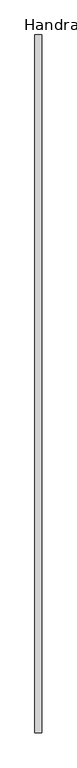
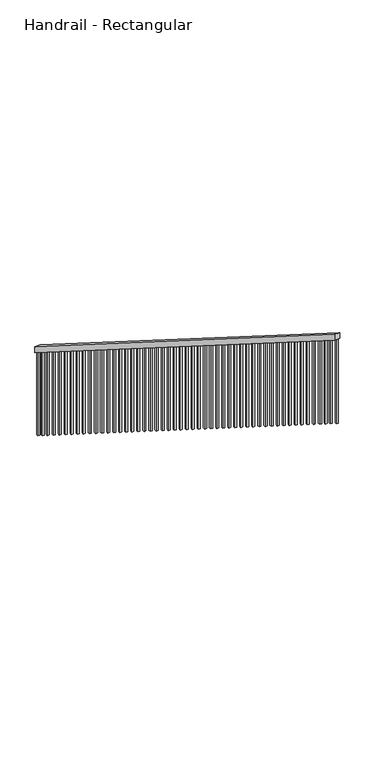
"""IFC4 building model written with IfcOpenShell, lengths in millimetres: railing geometry, Handrail - Rectangular."""

from ifc_helpers import new_model, si_unit, frame, origin, place, context, project, spatial, polyline, outline, extrude, source, transform, mapped, element, save


def handrail_rectangular_929c261a(model_context):
    return source(origin(), model_context, "Body", "SweptSolid", [
        extrude(outline(polyline([(56940.686508, -2261.9368421), (56940.686508, -2322.0204219), (51911.486508, 854.3164202), (51911.486508, 914.4), (56940.686508, -2261.9368421)])), frame((2423.4480231, 0.0, 0.0), z_axis=(1.0, 0.0, 0.0), x_axis=(0.0, 1.0, 0.0)), (0.0, 0.0, 1.0), 50.8),
        extrude(outline(polyline([(51930.536508, -6.0157895), (51911.486508, -6.0157895), (51911.486508, 854.3164202), (51930.536508, 842.2848412), (51930.536508, -6.0157895)])), frame((2439.3230231, 0.0, 0.0), z_axis=(1.0, 0.0, 0.0), x_axis=(0.0, 1.0, 0.0)), (0.0, 0.0, 1.0), 19.05),
        extrude(outline(polyline([(52032.136508, -70.1842105), (52013.086508, -70.1842105), (52013.086508, 790.1479991), (52032.136508, 778.1164202), (52032.136508, -70.1842105)])), frame((2439.3230231, 0.0, 0.0), z_axis=(1.0, 0.0, 0.0), x_axis=(0.0, 1.0, 0.0)), (0.0, 0.0, 1.0), 19.05),
        extrude(outline(polyline([(52111.511508, -120.3157895), (52092.461508, -120.3157895), (52092.461508, 740.0164202), (52111.511508, 727.9848412), (52111.511508, -120.3157895)])), frame((2439.3230231, 0.0, 0.0), z_axis=(1.0, 0.0, 0.0), x_axis=(0.0, 1.0, 0.0)), (0.0, 0.0, 1.0), 19.05),
        extrude(outline(polyline([(52209.936508, -182.4789474), (52190.886508, -182.4789474), (52190.886508, 677.8532623), (52209.936508, 665.8216833), (52209.936508, -182.4789474)])), frame((2439.3230231, 0.0, 0.0), z_axis=(1.0, 0.0, 0.0), x_axis=(0.0, 1.0, 0.0)), (0.0, 0.0, 1.0), 19.05),
        extrude(outline(polyline([(52311.536508, -246.6473684), (52292.486508, -246.6473684), (52292.486508, 613.6848412), (52311.536508, 601.6532623), (52311.536508, -246.6473684)])), frame((2439.3230231, 0.0, 0.0), z_axis=(1.0, 0.0, 0.0), x_axis=(0.0, 1.0, 0.0)), (0.0, 0.0, 1.0), 19.05),
        extrude(outline(polyline([(52413.136508, -310.8157895), (52394.086508, -310.8157895), (52394.086508, 549.5164202), (52413.136508, 537.4848412), (52413.136508, -310.8157895)])), frame((2439.3230231, 0.0, 0.0), z_axis=(1.0, 0.0, 0.0), x_axis=(0.0, 1.0, 0.0)), (0.0, 0.0, 1.0), 19.05),
        extrude(outline(polyline([(52514.736508, -374.9842105), (52495.686508, -374.9842105), (52495.686508, 485.3479991), (52514.736508, 473.3164202), (52514.736508, -374.9842105)])), frame((2439.3230231, 0.0, 0.0), z_axis=(1.0, 0.0, 0.0), x_axis=(0.0, 1.0, 0.0)), (0.0, 0.0, 1.0), 19.05),
        extrude(outline(polyline([(52616.336508, -439.1526316), (52597.286508, -439.1526316), (52597.286508, 421.1795781), (52616.336508, 409.1479991), (52616.336508, -439.1526316)])), frame((2439.3230231, 0.0, 0.0), z_axis=(1.0, 0.0, 0.0), x_axis=(0.0, 1.0, 0.0)), (0.0, 0.0, 1.0), 19.05),
        extrude(outline(polyline([(52717.936508, -503.3210526), (52698.886508, -503.3210526), (52698.886508, 357.011157), (52717.936508, 344.9795781), (52717.936508, -503.3210526)])), frame((2439.3230231, 0.0, 0.0), z_axis=(1.0, 0.0, 0.0), x_axis=(0.0, 1.0, 0.0)), (0.0, 0.0, 1.0), 19.05),
        extrude(outline(polyline([(52819.536508, -567.4894737), (52800.486508, -567.4894737), (52800.486508, 292.842736), (52819.536508, 280.811157), (52819.536508, -567.4894737)])), frame((2439.3230231, 0.0, 0.0), z_axis=(1.0, 0.0, 0.0), x_axis=(0.0, 1.0, 0.0)), (0.0, 0.0, 1.0), 19.05),
        extrude(outline(polyline([(52921.136508, -631.6578947), (52902.086508, -631.6578947), (52902.086508, 228.6743149), (52921.136508, 216.642736), (52921.136508, -631.6578947)])), frame((2439.3230231, 0.0, 0.0), z_axis=(1.0, 0.0, 0.0), x_axis=(0.0, 1.0, 0.0)), (0.0, 0.0, 1.0), 19.05),
        extrude(outline(polyline([(53022.736508, -695.8263158), (53003.686508, -695.8263158), (53003.686508, 164.5058939), (53022.736508, 152.4743149), (53022.736508, -695.8263158)])), frame((2439.3230231, 0.0, 0.0), z_axis=(1.0, 0.0, 0.0), x_axis=(0.0, 1.0, 0.0)), (0.0, 0.0, 1.0), 19.05),
        extrude(outline(polyline([(53124.336508, -759.9947368), (53105.286508, -759.9947368), (53105.286508, 100.3374728), (53124.336508, 88.3058939), (53124.336508, -759.9947368)])), frame((2439.3230231, 0.0, 0.0), z_axis=(1.0, 0.0, 0.0), x_axis=(0.0, 1.0, 0.0)), (0.0, 0.0, 1.0), 19.05),
        extrude(outline(polyline([(53225.936508, -824.1631579), (53206.886508, -824.1631579), (53206.886508, 36.1690517), (53225.936508, 24.1374728), (53225.936508, -824.1631579)])), frame((2439.3230231, 0.0, 0.0), z_axis=(1.0, 0.0, 0.0), x_axis=(0.0, 1.0, 0.0)), (0.0, 0.0, 1.0), 19.05),
        extrude(outline(polyline([(53327.536508, -888.3315789), (53308.486508, -888.3315789), (53308.486508, -27.9993693), (53327.536508, -40.0309483), (53327.536508, -888.3315789)])), frame((2439.3230231, 0.0, 0.0), z_axis=(1.0, 0.0, 0.0), x_axis=(0.0, 1.0, 0.0)), (0.0, 0.0, 1.0), 19.05),
        extrude(outline(polyline([(53429.136508, -952.5), (53410.086508, -952.5), (53410.086508, -92.1677904), (53429.136508, -104.1993693), (53429.136508, -952.5)])), frame((2439.3230231, 0.0, 0.0), z_axis=(1.0, 0.0, 0.0), x_axis=(0.0, 1.0, 0.0)), (0.0, 0.0, 1.0), 19.05),
        extrude(outline(polyline([(53530.736508, -1016.6684211), (53511.686508, -1016.6684211), (53511.686508, -156.3362114), (53530.736508, -168.3677904), (53530.736508, -1016.6684211)])), frame((2439.3230231, 0.0, 0.0), z_axis=(1.0, 0.0, 0.0), x_axis=(0.0, 1.0, 0.0)), (0.0, 0.0, 1.0), 19.05),
        extrude(outline(polyline([(53632.336508, -1080.8368421), (53613.286508, -1080.8368421), (53613.286508, -220.5046325), (53632.336508, -232.5362114), (53632.336508, -1080.8368421)])), frame((2439.3230231, 0.0, 0.0), z_axis=(1.0, 0.0, 0.0), x_axis=(0.0, 1.0, 0.0)), (0.0, 0.0, 1.0), 19.05),
        extrude(outline(polyline([(53733.936508, -1145.0052632), (53714.886508, -1145.0052632), (53714.886508, -284.6730535), (53733.936508, -296.7046325), (53733.936508, -1145.0052632)])), frame((2439.3230231, 0.0, 0.0), z_axis=(1.0, 0.0, 0.0), x_axis=(0.0, 1.0, 0.0)), (0.0, 0.0, 1.0), 19.05),
        extrude(outline(polyline([(53835.536508, -1209.1736842), (53816.486508, -1209.1736842), (53816.486508, -348.8414746), (53835.536508, -360.8730535), (53835.536508, -1209.1736842)])), frame((2439.3230231, 0.0, 0.0), z_axis=(1.0, 0.0, 0.0), x_axis=(0.0, 1.0, 0.0)), (0.0, 0.0, 1.0), 19.05),
        extrude(outline(polyline([(53937.136508, -1273.3421053), (53918.086508, -1273.3421053), (53918.086508, -413.0098956), (53937.136508, -425.0414746), (53937.136508, -1273.3421053)])), frame((2439.3230231, 0.0, 0.0), z_axis=(1.0, 0.0, 0.0), x_axis=(0.0, 1.0, 0.0)), (0.0, 0.0, 1.0), 19.05),
        extrude(outline(polyline([(54038.736508, -1337.5105263), (54019.686508, -1337.5105263), (54019.686508, -477.1783167), (54038.736508, -489.2098956), (54038.736508, -1337.5105263)])), frame((2439.3230231, 0.0, 0.0), z_axis=(1.0, 0.0, 0.0), x_axis=(0.0, 1.0, 0.0)), (0.0, 0.0, 1.0), 19.05),
        extrude(outline(polyline([(54140.336508, -1401.6789474), (54121.286508, -1401.6789474), (54121.286508, -541.3467377), (54140.336508, -553.3783167), (54140.336508, -1401.6789474)])), frame((2439.3230231, 0.0, 0.0), z_axis=(1.0, 0.0, 0.0), x_axis=(0.0, 1.0, 0.0)), (0.0, 0.0, 1.0), 19.05),
        extrude(outline(polyline([(54241.936508, -1465.8473684), (54222.886508, -1465.8473684), (54222.886508, -605.5151588), (54241.936508, -617.5467377), (54241.936508, -1465.8473684)])), frame((2439.3230231, 0.0, 0.0), z_axis=(1.0, 0.0, 0.0), x_axis=(0.0, 1.0, 0.0)), (0.0, 0.0, 1.0), 19.05),
        extrude(outline(polyline([(54343.536508, -1530.0157895), (54324.486508, -1530.0157895), (54324.486508, -669.6835798), (54343.536508, -681.7151588), (54343.536508, -1530.0157895)])), frame((2439.3230231, 0.0, 0.0), z_axis=(1.0, 0.0, 0.0), x_axis=(0.0, 1.0, 0.0)), (0.0, 0.0, 1.0), 19.05),
        extrude(outline(polyline([(54445.136508, -1594.1842105), (54426.086508, -1594.1842105), (54426.086508, -733.8520009), (54445.136508, -745.8835798), (54445.136508, -1594.1842105)])), frame((2439.3230231, 0.0, 0.0), z_axis=(1.0, 0.0, 0.0), x_axis=(0.0, 1.0, 0.0)), (0.0, 0.0, 1.0), 19.05),
        extrude(outline(polyline([(54546.736508, -1658.3526316), (54527.686508, -1658.3526316), (54527.686508, -798.0204219), (54546.736508, -810.0520009), (54546.736508, -1658.3526316)])), frame((2439.3230231, 0.0, 0.0), z_axis=(1.0, 0.0, 0.0), x_axis=(0.0, 1.0, 0.0)), (0.0, 0.0, 1.0), 19.05),
        extrude(outline(polyline([(54648.336508, -1722.5210526), (54629.286508, -1722.5210526), (54629.286508, -862.188843), (54648.336508, -874.2204219), (54648.336508, -1722.5210526)])), frame((2439.3230231, 0.0, 0.0), z_axis=(1.0, 0.0, 0.0), x_axis=(0.0, 1.0, 0.0)), (0.0, 0.0, 1.0), 19.05),
        extrude(outline(polyline([(54749.936508, -1786.6894737), (54730.886508, -1786.6894737), (54730.886508, -926.357264), (54749.936508, -938.388843), (54749.936508, -1786.6894737)])), frame((2439.3230231, 0.0, 0.0), z_axis=(1.0, 0.0, 0.0), x_axis=(0.0, 1.0, 0.0)), (0.0, 0.0, 1.0), 19.05),
        extrude(outline(polyline([(54851.536508, -1850.8578947), (54832.486508, -1850.8578947), (54832.486508, -990.5256851), (54851.536508, -1002.557264), (54851.536508, -1850.8578947)])), frame((2439.3230231, 0.0, 0.0), z_axis=(1.0, 0.0, 0.0), x_axis=(0.0, 1.0, 0.0)), (0.0, 0.0, 1.0), 19.05),
        extrude(outline(polyline([(54953.136508, -1915.0263158), (54934.086508, -1915.0263158), (54934.086508, -1054.6941061), (54953.136508, -1066.7256851), (54953.136508, -1915.0263158)])), frame((2439.3230231, 0.0, 0.0), z_axis=(1.0, 0.0, 0.0), x_axis=(0.0, 1.0, 0.0)), (0.0, 0.0, 1.0), 19.05),
        extrude(outline(polyline([(55054.736508, -1979.1947368), (55035.686508, -1979.1947368), (55035.686508, -1118.8625272), (55054.736508, -1130.8941061), (55054.736508, -1979.1947368)])), frame((2439.3230231, 0.0, 0.0), z_axis=(1.0, 0.0, 0.0), x_axis=(0.0, 1.0, 0.0)), (0.0, 0.0, 1.0), 19.05),
        extrude(outline(polyline([(55156.336508, -2043.3631579), (55137.286508, -2043.3631579), (55137.286508, -1183.0309483), (55156.336508, -1195.0625272), (55156.336508, -2043.3631579)])), frame((2439.3230231, 0.0, 0.0), z_axis=(1.0, 0.0, 0.0), x_axis=(0.0, 1.0, 0.0)), (0.0, 0.0, 1.0), 19.05),
        extrude(outline(polyline([(55257.936508, -2107.5315789), (55238.886508, -2107.5315789), (55238.886508, -1247.1993693), (55257.936508, -1259.2309483), (55257.936508, -2107.5315789)])), frame((2439.3230231, 0.0, 0.0), z_axis=(1.0, 0.0, 0.0), x_axis=(0.0, 1.0, 0.0)), (0.0, 0.0, 1.0), 19.05),
        extrude(outline(polyline([(55359.536508, -2171.7), (55340.486508, -2171.7), (55340.486508, -1311.3677904), (55359.536508, -1323.3993693), (55359.536508, -2171.7)])), frame((2439.3230231, 0.0, 0.0), z_axis=(1.0, 0.0, 0.0), x_axis=(0.0, 1.0, 0.0)), (0.0, 0.0, 1.0), 19.05),
        extrude(outline(polyline([(55461.136508, -2235.8684211), (55442.086508, -2235.8684211), (55442.086508, -1375.5362114), (55461.136508, -1387.5677904), (55461.136508, -2235.8684211)])), frame((2439.3230231, 0.0, 0.0), z_axis=(1.0, 0.0, 0.0), x_axis=(0.0, 1.0, 0.0)), (0.0, 0.0, 1.0), 19.05),
        extrude(outline(polyline([(55562.736508, -2300.0368421), (55543.686508, -2300.0368421), (55543.686508, -1439.7046325), (55562.736508, -1451.7362114), (55562.736508, -2300.0368421)])), frame((2439.3230231, 0.0, 0.0), z_axis=(1.0, 0.0, 0.0), x_axis=(0.0, 1.0, 0.0)), (0.0, 0.0, 1.0), 19.05),
        extrude(outline(polyline([(55664.336508, -2364.2052632), (55645.286508, -2364.2052632), (55645.286508, -1503.8730535), (55664.336508, -1515.9046325), (55664.336508, -2364.2052632)])), frame((2439.3230231, 0.0, 0.0), z_axis=(1.0, 0.0, 0.0), x_axis=(0.0, 1.0, 0.0)), (0.0, 0.0, 1.0), 19.05),
        extrude(outline(polyline([(55765.936508, -2428.3736842), (55746.886508, -2428.3736842), (55746.886508, -1568.0414746), (55765.936508, -1580.0730535), (55765.936508, -2428.3736842)])), frame((2439.3230231, 0.0, 0.0), z_axis=(1.0, 0.0, 0.0), x_axis=(0.0, 1.0, 0.0)), (0.0, 0.0, 1.0), 19.05),
        extrude(outline(polyline([(55867.536508, -2492.5421053), (55848.486508, -2492.5421053), (55848.486508, -1632.2098956), (55867.536508, -1644.2414746), (55867.536508, -2492.5421053)])), frame((2439.3230231, 0.0, 0.0), z_axis=(1.0, 0.0, 0.0), x_axis=(0.0, 1.0, 0.0)), (0.0, 0.0, 1.0), 19.05),
        extrude(outline(polyline([(55969.136508, -2556.7105263), (55950.086508, -2556.7105263), (55950.086508, -1696.3783167), (55969.136508, -1708.4098956), (55969.136508, -2556.7105263)])), frame((2439.3230231, 0.0, 0.0), z_axis=(1.0, 0.0, 0.0), x_axis=(0.0, 1.0, 0.0)), (0.0, 0.0, 1.0), 19.05),
        extrude(outline(polyline([(56070.736508, -2620.8789474), (56051.686508, -2620.8789474), (56051.686508, -1760.5467377), (56070.736508, -1772.5783167), (56070.736508, -2620.8789474)])), frame((2439.3230231, 0.0, 0.0), z_axis=(1.0, 0.0, 0.0), x_axis=(0.0, 1.0, 0.0)), (0.0, 0.0, 1.0), 19.05),
        extrude(outline(polyline([(56172.336508, -2685.0473684), (56153.286508, -2685.0473684), (56153.286508, -1824.7151588), (56172.336508, -1836.7467377), (56172.336508, -2685.0473684)])), frame((2439.3230231, 0.0, 0.0), z_axis=(1.0, 0.0, 0.0), x_axis=(0.0, 1.0, 0.0)), (0.0, 0.0, 1.0), 19.05),
        extrude(outline(polyline([(56273.936508, -2749.2157895), (56254.886508, -2749.2157895), (56254.886508, -1888.8835798), (56273.936508, -1900.9151588), (56273.936508, -2749.2157895)])), frame((2439.3230231, 0.0, 0.0), z_axis=(1.0, 0.0, 0.0), x_axis=(0.0, 1.0, 0.0)), (0.0, 0.0, 1.0), 19.05),
        extrude(outline(polyline([(56375.536508, -2813.3842105), (56356.486508, -2813.3842105), (56356.486508, -1953.0520009), (56375.536508, -1965.0835798), (56375.536508, -2813.3842105)])), frame((2439.3230231, 0.0, 0.0), z_axis=(1.0, 0.0, 0.0), x_axis=(0.0, 1.0, 0.0)), (0.0, 0.0, 1.0), 19.05),
        extrude(outline(polyline([(56477.136508, -2877.5526316), (56458.086508, -2877.5526316), (56458.086508, -2017.2204219), (56477.136508, -2029.2520009), (56477.136508, -2877.5526316)])), frame((2439.3230231, 0.0, 0.0), z_axis=(1.0, 0.0, 0.0), x_axis=(0.0, 1.0, 0.0)), (0.0, 0.0, 1.0), 19.05),
        extrude(outline(polyline([(56578.736508, -2941.7210526), (56559.686508, -2941.7210526), (56559.686508, -2081.388843), (56578.736508, -2093.4204219), (56578.736508, -2941.7210526)])), frame((2439.3230231, 0.0, 0.0), z_axis=(1.0, 0.0, 0.0), x_axis=(0.0, 1.0, 0.0)), (0.0, 0.0, 1.0), 19.05),
        extrude(outline(polyline([(56680.336508, -3005.8894737), (56661.286508, -3005.8894737), (56661.286508, -2145.557264), (56680.336508, -2157.588843), (56680.336508, -3005.8894737)])), frame((2439.3230231, 0.0, 0.0), z_axis=(1.0, 0.0, 0.0), x_axis=(0.0, 1.0, 0.0)), (0.0, 0.0, 1.0), 19.05),
        extrude(outline(polyline([(56781.936508, -3070.0578947), (56762.886508, -3070.0578947), (56762.886508, -2209.7256851), (56781.936508, -2221.757264), (56781.936508, -3070.0578947)])), frame((2439.3230231, 0.0, 0.0), z_axis=(1.0, 0.0, 0.0), x_axis=(0.0, 1.0, 0.0)), (0.0, 0.0, 1.0), 19.05),
        extrude(outline(polyline([(56861.311508, -3120.1894737), (56842.261508, -3120.1894737), (56842.261508, -2259.857264), (56861.311508, -2271.888843), (56861.311508, -3120.1894737)])), frame((2439.3230231, 0.0, 0.0), z_axis=(1.0, 0.0, 0.0), x_axis=(0.0, 1.0, 0.0)), (0.0, 0.0, 1.0), 19.05),
        extrude(outline(polyline([(56940.686508, -3170.3210526), (56921.636508, -3170.3210526), (56921.636508, -2309.988843), (56940.686508, -2322.0204219), (56940.686508, -3170.3210526)])), frame((2439.3230231, 0.0, 0.0), z_axis=(1.0, 0.0, 0.0), x_axis=(0.0, 1.0, 0.0)), (0.0, 0.0, 1.0), 19.05),
    ])


if __name__ == "__main__":
    model = new_model("IFC4")
    model_context = context("Model", 3, world=origin())
    ifc_project = project(units=[si_unit("LENGTHUNIT", "METRE", prefix="MILLI")], contexts=[model_context])
    site = spatial("IfcSite", under=ifc_project)
    building = spatial("IfcBuilding", under=site)
    placement = place(None, origin())
    handrail_rectangular_shape = handrail_rectangular_929c261a(model_context)
    element("IfcRailing", 1, ObjectType="Handrail - Rectangular", at=placement, inside=building, context=model_context, shape_type="MappedRepresentation", body=[
        mapped(handrail_rectangular_shape, transform((0.0, 0.0, 0.0), x_axis=(1.0, 0.0, 0.0), y_axis=(0.0, 1.0, 0.0), z_axis=(0.0, 0.0, 1.0))),
    ])
    save(model, "model.ifc")
